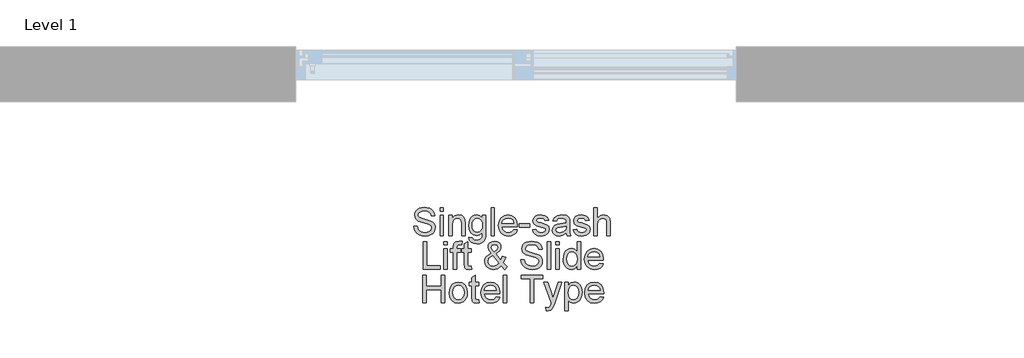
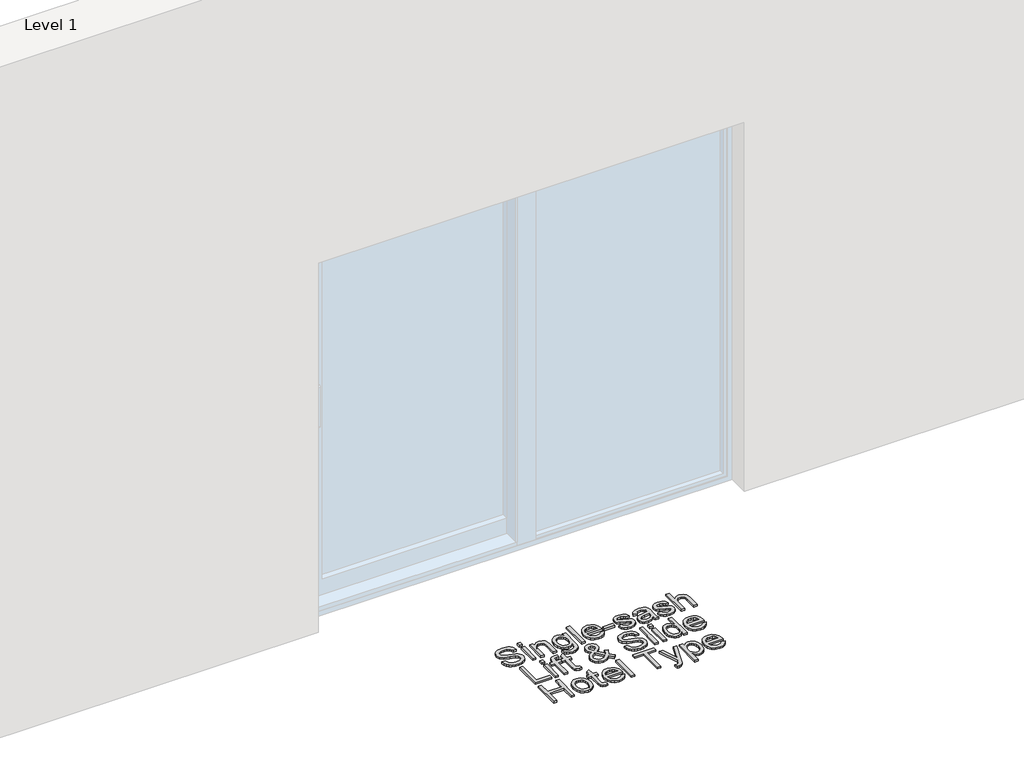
# One storey, part 9 of 13: 1 proxy.
"""IFC4 building model written with IfcOpenShell, lengths in millimetres."""

import ifcopenshell
import ifcopenshell.guid

model = None  # the IFC model being written
_history = None  # IfcOwnerHistory: only IFC2X3 demands one
_inside = {}  # id of a spatial element -> (the spatial element, [elements in it])
_under = {}  # id of a project, library or spatial element -> (it, [spatial elements below it])
_declared = {}  # id of a project -> (the project, [libraries it declares])
_typed = {}  # id of a type object -> (the type object, [elements of that type])
_made_of = {}  # id of a material, layer set ... -> (it, [elements and type objects made of it])


def new_model(schema):
    """Start an empty IFC model of exactly this schema.

    Asked for "IFC4X3", IfcOpenShell would pick the latest addendum, in which some entities
    have other attributes; the version numbers below select the first issue.
    IFC2X3 requires an IfcOwnerHistory on every rooted entity: one is made here for all.
    """
    global model, _history
    if schema == "IFC4X3":
        model = ifcopenshell.file(schema_version=(4, 3, 0, 0))
    else:
        model = ifcopenshell.file(schema=schema)
    _inside.clear()
    _under.clear()
    _declared.clear()
    _typed.clear()
    _made_of.clear()
    _history = None
    if model.schema == "IFC2X3":
        org = make("IfcOrganization", Name="unknown")
        user = make(
            "IfcPersonAndOrganization",
            ThePerson=make("IfcPerson", FamilyName="unknown"),
            TheOrganization=org,
        )
        app = make(
            "IfcApplication",
            ApplicationDeveloper=org,
            Version="unknown",
            ApplicationFullName="unknown",
            ApplicationIdentifier="unknown",
        )
        _history = make(
            "IfcOwnerHistory",
            OwningUser=user,
            OwningApplication=app,
            ChangeAction="ADDED",
            CreationDate=0,
        )
    return model


def make(cls, **values):
    """One entity of the class cls with the attributes given. An attribute that is None is left unset."""
    return model.create_entity(
        cls, **{name: value for name, value in values.items() if value is not None}
    )


def rooted(cls, **values):
    """An entity with a GlobalId (a new one), such as an element, a storey or a relation."""
    return make(cls, GlobalId=ifcopenshell.guid.new(), OwnerHistory=_history, **values)


def si_unit(unit_type, name, prefix=None):
    """IfcSIUnit, for example si_unit("LENGTHUNIT", "METRE", prefix="MILLI")."""
    return make("IfcSIUnit", UnitType=unit_type, Prefix=prefix, Name=name)


def assignment(units):
    """IfcUnitAssignment: the units of a project."""
    return None if units is None else make("IfcUnitAssignment", Units=units)


def point(xyz):
    """IfcCartesianPoint."""
    return None if xyz is None else make("IfcCartesianPoint", Coordinates=xyz)


def direction(xyz):
    """IfcDirection."""
    return None if xyz is None else make("IfcDirection", DirectionRatios=xyz)


def frame(location, z_axis=None, x_axis=None):
    """IfcAxis2Placement3D, a coordinate frame: its origin and axes. An axis left out is left unset."""
    return make(
        "IfcAxis2Placement3D",
        Location=point(location),
        Axis=direction(z_axis),
        RefDirection=direction(x_axis),
    )


def origin():
    """The frame at (0, 0, 0) with its axes left unset."""
    return frame((0.0, 0.0, 0.0))


def origin_with_axes():
    """The frame at (0, 0, 0) with the z axis (0, 0, 1) and the x axis (1, 0, 0) written out."""
    return frame((0.0, 0.0, 0.0), z_axis=(0.0, 0.0, 1.0), x_axis=(1.0, 0.0, 0.0))


def place(relative_to, where):
    """IfcLocalPlacement: puts the frame where relative to a parent placement (None: the world)."""
    return make(
        "IfcLocalPlacement", PlacementRelTo=relative_to, RelativePlacement=where
    )


def context(
    kind, dimensions, precision=None, world=None, true_north=None, identifier=None
):
    """IfcGeometricRepresentationContext, for example the 3D "Model" context."""
    return make(
        "IfcGeometricRepresentationContext",
        ContextIdentifier=identifier,
        ContextType=kind,
        CoordinateSpaceDimension=dimensions,
        Precision=precision,
        WorldCoordinateSystem=world,
        TrueNorth=true_north,
    )


def project(units=None, contexts=None):
    """IfcProject with its units and contexts."""
    return rooted(
        "IfcProject",
        Name="project",
        RepresentationContexts=contexts,
        UnitsInContext=assignment(units),
    )


def spatial(cls, under=None, at=None, **own):
    """A site, building, storey or space (cls), placed at a placement, below another one or the project."""
    s = rooted(cls, ObjectPlacement=at, **own)
    if under is not None:
        _under.setdefault(under.id(), (under, []))[1].append(s)
    return s


def polyline(points):
    """IfcPolyline through the points."""
    return make("IfcPolyline", Points=[point(p) for p in points])


def outline(outer, holes=None, kind="AREA"):
    """IfcArbitraryClosedProfileDef: a profile drawn as a closed curve; with holes, ...WithVoids."""
    if holes is None:
        return make("IfcArbitraryClosedProfileDef", ProfileType=kind, OuterCurve=outer)
    return make(
        "IfcArbitraryProfileDefWithVoids",
        ProfileType=kind,
        OuterCurve=outer,
        InnerCurves=holes,
    )


def extrude(swept, where, along, depth):
    """IfcExtrudedAreaSolid: the profile swept, set in the frame where, extruded along a direction by depth."""
    return make(
        "IfcExtrudedAreaSolid",
        SweptArea=swept,
        Position=where,
        ExtrudedDirection=direction(along),
        Depth=depth,
    )


def shape(context_of_items, identifier, shape_type, items):
    """IfcShapeRepresentation: the items that make up one representation, for example the "Body"."""
    return make(
        "IfcShapeRepresentation",
        ContextOfItems=context_of_items,
        RepresentationIdentifier=identifier,
        RepresentationType=shape_type,
        Items=items,
    )


def made_of(thing, what):
    """Note that an element or type object is made of a material, layer set ...; save() writes the relation."""
    if what is not None:
        _made_of.setdefault(what.id(), (what, []))[1].append(thing)
    return thing


def element(
    cls,
    number,
    at=None,
    inside=None,
    cuts=None,
    type_object=None,
    material=None,
    context=None,
    identifier="Body",
    shape_type=None,
    held_by="IfcProductDefinitionShape",
    body=None,
    shapes=None,
    **own,
):
    """One element of the class cls, such as IfcWall. Its Tag is "e" and its number.

    at: its placement. inside: the storey or other place that contains it. cuts: it is an
    opening in that element (IfcRelVoidsElement). A single representation is given by context,
    identifier, shape_type and body (its items); several are given by shapes. held_by: the class
    of the entity that holds the representations. save() writes the other relations.
    """
    e = rooted(cls, Tag="e%d" % number, ObjectPlacement=at, **own)
    if body is not None:
        shapes = [shape(context, identifier, shape_type, body)]
    if shapes is not None:
        e.Representation = make(held_by, Representations=shapes)
    if inside is not None:
        _inside.setdefault(inside.id(), (inside, []))[1].append(e)
    if cuts is not None:
        rooted(
            "IfcRelVoidsElement", RelatingBuildingElement=cuts, RelatedOpeningElement=e
        )
    if type_object is not None:
        _typed.setdefault(type_object.id(), (type_object, []))[1].append(e)
    return made_of(e, material)


def aggregate(whole, parts):
    """IfcRelAggregates: a whole, such as a stair, and the parts it consists of."""
    return rooted("IfcRelAggregates", RelatingObject=whole, RelatedObjects=parts)


def save(model, path):
    """Write the relations noted so far, then the file.

    IfcRelAggregates (storeys below a building ...), IfcRelContainedInSpatialStructure (elements
    in a storey), IfcRelDefinesByType, IfcRelAssociatesMaterial and IfcRelDeclares: one each for
    every whole, place, type object, material and project.
    """
    for whole, parts in _under.values():
        aggregate(whole, parts)
    for where, things in _inside.values():
        rooted(
            "IfcRelContainedInSpatialStructure",
            RelatedElements=things,
            RelatingStructure=where,
        )
    for kind, things in _typed.values():
        rooted("IfcRelDefinesByType", RelatedObjects=things, RelatingType=kind)
    for what, things in _made_of.values():
        rooted("IfcRelAssociatesMaterial", RelatedObjects=things, RelatingMaterial=what)
    for by, libraries in _declared.values():
        rooted("IfcRelDeclares", RelatingContext=by, RelatedDefinitions=libraries)
    model.write(path)


model = new_model("IFC4")

# Units and contexts
model_context = context("Model", 3, world=origin())
ifc_project = project(units=[si_unit("LENGTHUNIT", "METRE", prefix="MILLI")], contexts=[model_context])

# Site, building, storey
site = spatial("IfcSite", under=ifc_project)
building = spatial("IfcBuilding", under=site)
storey = spatial("IfcBuildingStorey", under=building, Name="Level 1", Elevation=0.0)

# Proxy
placement = place(None, origin())
element("IfcBuildingElementProxy", 1, Name="150mm Arial", ObjectType="150mm Arial", at=placement, inside=storey, context=model_context, shape_type="SweptSolid", body=[
    extrude(outline(polyline([(11421.3631783, -845.8649684), (11440.1987364, -845.8649684), (11446.2687894, -864.7189207), (11461.0944338, -876.6382973), (11483.6823883, -881.18164), (11503.364075, -877.7419433), (11516.074398, -868.287376), (11520.2498586, -855.6506295), (11517.1228616, -843.8967997), (11504.3205682, -835.3435434), (11476.8949655, -828.1514504), (11447.3724354, -818.86243), (11431.3511745, -804.846126), (11426.0720678, -786.1209324), (11427.7045442, -775.0890711), (11432.6019732, -764.8021708), (11440.6355963, -756.0833675), (11451.6766547, -749.7557972), (11479.5988981, -744.6238433), (11509.3973397, -749.9949205), (11520.8200757, -756.6259934), (11529.2629675, -765.7770581), (11534.6064535, -776.8778973), (11536.730972, -789.358294), (11517.8954138, -789.358294), (11514.4373231, -778.119499), (11507.226836, -770.007701), (11495.9604499, -765.0964764), (11480.3346621, -763.4594015), (11464.3409924, -765.0780823), (11453.3689119, -769.9341246), (11447.0229475, -777.0802324), (11444.907626, -785.5691094), (11446.4067451, -792.8071877), (11450.9041025, -798.6289202), (11481.6590373, -809.1503453), (11514.9891461, -818.6049126), (11525.7267018, -825.4383206), (11533.2176989, -833.8720154), (11537.6184873, -843.8140263), (11539.0854168, -855.1723829), (11537.3977581, -866.7836584), (11532.3347821, -877.7051551), (11524.1034225, -887.1045401), (11512.9106128, -894.1494803), (11499.4507303, -898.5502687), (11484.4181523, -900.0171981), (11465.9642717, -898.4353055), (11450.7753438, -893.6896278), (11438.6766247, -885.7617708), (11429.4933704, -874.6333404), (11423.5980614, -861.0768889), (11421.3631783, -845.8649684)])), origin_with_axes(), (0.0, 0.0, 1.0), 10.0),
    extrude(outline(polyline([(11564.9843092, -897.6627533), (11564.9843092, -787.0038492), (11583.8198674, -787.0038492), (11583.8198674, -897.6627533), (11564.9843092, -897.6627533)])), origin_with_axes(), (0.0, 0.0, 1.0), 10.0),
    extrude(outline(polyline([(11564.9843092, -765.8138463), (11564.9843092, -746.9782881), (11583.8198674, -746.9782881), (11583.8198674, -765.8138463), (11564.9843092, -765.8138463)])), origin_with_axes(), (0.0, 0.0, 1.0), 10.0),
    extrude(outline(polyline([(11612.0732046, -897.6627533), (11612.0732046, -787.0038492), (11630.9087627, -787.0038492), (11630.9087627, -802.454893), (11645.3113429, -789.1007766), (11664.9746355, -784.6494044), (11682.76173, -788.2362539), (11694.9018358, -797.654033), (11700.5488244, -811.5047901), (11701.5421058, -829.7149488), (11701.5421058, -897.6627533), (11682.7065477, -897.6627533), (11682.7065477, -832.2533346), (11680.5360439, -815.5882802), (11672.8657043, -806.7775064), (11659.9346522, -803.4849626), (11648.9027908, -805.3335696), (11639.4988073, -810.8793907), (11633.0562739, -821.5939538), (11630.9087627, -838.9487869), (11630.9087627, -897.6627533), (11612.0732046, -897.6627533)])), origin_with_axes(), (0.0, 0.0, 1.0), 10.0),
    extrude(outline(polyline([(11722.7321087, -907.0805324), (11741.5676669, -909.4349772), (11747.674508, -919.3677911), (11765.9582432, -923.5616458), (11785.2352597, -918.8159681), (11794.4323096, -905.4986398), (11795.7198966, -883.5360847), (11782.4577507, -894.1310862), (11766.289337, -897.6627533), (11746.8697662, -893.551672), (11732.3890111, -881.2184282), (11723.3805008, -863.1370281), (11720.377664, -841.7814783), (11725.7671352, -812.590042), (11732.36142, -800.7396432), (11741.3653318, -791.9334679), (11752.4707695, -786.4704203), (11765.369632, -784.6494044), (11782.1726421, -788.7696828), (11795.7198966, -801.1305178), (11795.7198966, -787.0038492), (11814.5554547, -787.0038492), (11814.5554547, -882.5428033), (11813.2678678, -904.6019275), (11809.4051068, -919.1286678), (11802.7510412, -928.7625775), (11793.0895403, -936.14321), (11780.6321363, -940.8337055), (11765.5903612, -942.397204), (11748.0653826, -940.1945105), (11734.2652093, -933.5864302), (11725.4130488, -922.5545688), (11722.7321087, -907.0805324)]), holes=[polyline([(11739.2132221, -840.4938913), (11741.2227775, -857.7705495), (11747.2514437, -869.6485394), (11756.3151364, -876.5325312), (11767.4297712, -878.8271952), (11778.4616325, -876.5463268), (11787.5713104, -869.7037217), (11793.68275, -857.9774831), (11795.7198966, -841.0457143), (11793.6229692, -824.7163522), (11787.3321871, -812.957924), (11778.089152, -805.8532029), (11767.1354656, -803.4849626), (11756.3795157, -805.8164147), (11747.3618083, -812.8107712), (11741.2503687, -824.3944555), (11739.2132221, -840.4938913)])]), origin_with_axes(), (0.0, 0.0, 1.0), 10.0),
    extrude(outline(polyline([(11842.808792, -897.6627533), (11842.808792, -746.9782881), (11861.6443501, -746.9782881), (11861.6443501, -897.6627533), (11842.808792, -897.6627533)])), origin_with_axes(), (0.0, 0.0, 1.0), 10.0),
    extrude(outline(polyline([(11967.3736355, -864.7005266), (11985.8413117, -867.0549713), (11979.1872461, -880.9701078), (11968.569252, -891.3719712), (11954.2264527, -897.8558914), (11936.3979715, -900.0171981), (11914.2974607, -896.2877944), (11897.2921155, -885.0995832), (11886.4487936, -867.1791315), (11882.834353, -843.2530063), (11886.4855818, -818.5221391), (11897.4392683, -800.0268718), (11914.2146872, -788.4937713), (11935.3311138, -784.6494044), (11955.7899512, -788.4845742), (11972.1377074, -799.9900836), (11982.856869, -818.4485627), (11986.4299229, -843.1426417), (11986.3195583, -848.2194132), (11901.6699112, -848.2194132), (11904.9302654, -862.3184907), (11912.504036, -872.6835659), (11923.4347297, -879.0571214), (11936.7658535, -881.18164), (11955.2335297, -877.2453026), (11967.3736355, -864.7005266)]), holes=[polyline([(11901.6699112, -829.383855), (11967.5943647, -829.383855), (11965.0467819, -819.4326471), (11960.0527838, -812.3141305), (11949.0715063, -805.6922545), (11935.2575374, -803.4849626), (11922.56101, -805.2461976), (11912.0625776, -810.5299028), (11904.7647185, -818.765861), (11901.6699112, -829.383855)])]), origin_with_axes(), (0.0, 0.0, 1.0), 10.0),
    extrude(outline(polyline([(11995.847702, -852.9283027), (11995.847702, -834.0927446), (12054.7088212, -834.0927446), (12054.7088212, -852.9283027), (11995.847702, -852.9283027)])), origin_with_axes(), (0.0, 0.0, 1.0), 10.0),
    extrude(outline(polyline([(12068.8354898, -864.7005266), (12087.671048, -862.3460818), (12090.6416951, -870.4026975), (12096.3898512, -876.3255976), (12116.3658436, -881.18164), (12135.5692837, -876.7302678), (12141.8232776, -866.2824192), (12140.2505821, -861.4815591), (12135.5324955, -857.8211333), (12116.1451144, -852.4500561), (12087.7814126, -843.2346122), (12075.4021834, -832.4740638), (12071.1899346, -817.2805374), (12074.5744489, -803.2458393), (12083.808287, -792.5220791), (12095.782846, -786.9486669), (12111.9880478, -784.6494044), (12134.9070961, -788.3466185), (12149.4752231, -798.3530087), (12155.9499463, -815.2571864), (12137.1143881, -817.6116312), (12130.0326597, -807.2189648), (12113.4595758, -803.4849626), (12095.4333581, -807.0534179), (12090.0254927, -815.367551), (12092.2695729, -820.8489927), (12099.296119, -825.0060593), (12115.519715, -829.015973), (12143.1660469, -837.8819291), (12156.0051286, -847.9251076), (12160.6588358, -864.2958564), (12155.1957882, -882.3220741), (12139.4320447, -895.4002791), (12116.1083262, -900.0171981), (12097.1164182, -897.791512), (12083.256464, -891.1144538), (12074.0042318, -880.0595999), (12068.8354898, -864.7005266)])), origin_with_axes(), (0.0, 0.0, 1.0), 10.0),
    extrude(outline(polyline([(12252.4821818, -883.5360847), (12234.2168407, -896.30159), (12214.0385133, -900.0171981), (12198.2977624, -897.782315), (12186.686487, -891.0776656), (12179.5265836, -880.8965314), (12177.1399492, -868.2321937), (12180.7451927, -853.3329729), (12190.2181541, -842.5172423), (12203.4067236, -836.3368247), (12219.703896, -833.5041334), (12252.3718172, -827.0294103), (12252.4821818, -822.8355555), (12251.1853978, -814.4294519), (12247.2950457, -808.9296161), (12238.5946365, -804.846126), (12226.4729247, -803.4849626), (12207.4166374, -807.1086002), (12198.3299521, -819.966076), (12179.494394, -817.6116312), (12187.6429801, -799.2175314), (12204.0505171, -788.438589), (12228.9009459, -784.6494044), (12251.7280237, -787.9971306), (12264.6222876, -796.4032342), (12270.398035, -809.1871335), (12271.31774, -825.6682469), (12271.31774, -849.10233), (12272.2742331, -881.8254334), (12276.0266295, -897.6627533), (12257.1910713, -897.6627533), (12252.4821818, -883.5360847)]), holes=[polyline([(12252.4821818, -845.8649684), (12222.095129, -851.6407157), (12205.8899271, -854.6941363), (12198.5506813, -859.6605432), (12195.9755073, -866.9078185), (12201.5857078, -877.0981498), (12218.048427, -881.18164), (12237.1047144, -876.6750855), (12249.391973, -865.7673844), (12252.3718172, -851.1992574), (12252.4821818, -845.8649684)])]), origin_with_axes(), (0.0, 0.0, 1.0), 10.0),
    extrude(outline(polyline([(12290.1532981, -864.7005266), (12308.9888563, -862.3460818), (12311.9595034, -870.4026975), (12317.7076595, -876.3255976), (12337.6836519, -881.18164), (12356.887092, -876.7302678), (12363.1410859, -866.2824192), (12361.5683904, -861.4815591), (12356.8503038, -857.8211333), (12337.4629227, -852.4500561), (12309.0992209, -843.2346122), (12296.7199917, -832.4740638), (12292.5077429, -817.2805374), (12295.8922572, -803.2458393), (12305.1260953, -792.5220791), (12317.1006543, -786.9486669), (12333.3058561, -784.6494044), (12356.2249044, -788.3466185), (12370.7930314, -798.3530087), (12377.2677546, -815.2571864), (12358.4321964, -817.6116312), (12351.350468, -807.2189648), (12334.7773841, -803.4849626), (12316.7511664, -807.0534179), (12311.343301, -815.367551), (12313.5873812, -820.8489927), (12320.6139273, -825.0060593), (12336.8375233, -829.015973), (12364.4838552, -837.8819291), (12377.3229369, -847.9251076), (12381.9766441, -864.2958564), (12376.5135965, -882.3220741), (12360.749853, -895.4002791), (12337.4261345, -900.0171981), (12318.4342265, -897.791512), (12304.5742723, -891.1144538), (12295.3220401, -880.0595999), (12290.1532981, -864.7005266)])), origin_with_axes(), (0.0, 0.0, 1.0), 10.0),
    extrude(outline(polyline([(12403.166647, -897.6627533), (12403.166647, -746.9782881), (12422.0022052, -746.9782881), (12422.0022052, -802.3813166), (12436.6898938, -789.0823825), (12454.7804909, -784.6494044), (12475.9337057, -789.4870527), (12488.7727873, -802.8595632), (12492.6355482, -827.6180215), (12492.6355482, -897.6627533), (12473.7999901, -897.6627533), (12473.7999901, -829.567796), (12472.300871, -817.7771781), (12467.8035136, -809.7021683), (12460.5562383, -805.039264), (12450.8073654, -803.4849626), (12435.3747157, -807.6788173), (12425.0740198, -819.046371), (12422.0022052, -838.8752105), (12422.0022052, -897.6627533), (12403.166647, -897.6627533)])), origin_with_axes(), (0.0, 0.0, 1.0), 10.0),
    extrude(outline(polyline([(11473.1609632, -1080.6249801), (11473.1609632, -929.9405149), (11491.9965214, -929.9405149), (11491.9965214, -1061.789422), (11567.338754, -1061.789422), (11567.338754, -1080.6249801), (11473.1609632, -1080.6249801)])), origin_with_axes(), (0.0, 0.0, 1.0), 10.0),
    extrude(outline(polyline([(11586.1743121, -948.776073), (11586.1743121, -929.9405149), (11605.0098703, -929.9405149), (11605.0098703, -948.776073), (11586.1743121, -948.776073)])), origin_with_axes(), (0.0, 0.0, 1.0), 10.0),
    extrude(outline(polyline([(11586.1743121, -1080.6249801), (11586.1743121, -969.966076), (11605.0098703, -969.966076), (11605.0098703, -1080.6249801), (11586.1743121, -1080.6249801)])), origin_with_axes(), (0.0, 0.0, 1.0), 10.0),
    extrude(outline(polyline([(11637.9720971, -1080.6249801), (11637.9720971, -988.8016341), (11621.4909837, -988.8016341), (11621.4909837, -969.966076), (11637.9720971, -969.966076), (11637.9720971, -958.8192515), (11639.9586598, -943.1106903), (11649.5971681, -931.8902895), (11668.5798791, -927.5860701), (11685.7599682, -929.6462093), (11683.0008533, -947.3045451), (11672.1483344, -946.4216283), (11660.2841401, -949.5486252), (11656.8076552, -961.2104845), (11656.8076552, -969.966076), (11677.9976581, -969.966076), (11677.9976581, -988.8016341), (11656.8076552, -988.8016341), (11656.8076552, -1080.6249801), (11637.9720971, -1080.6249801)])), origin_with_axes(), (0.0, 0.0, 1.0), 10.0),
    extrude(outline(polyline([(11734.5043326, -1064.9164189), (11736.8587774, -1081.1768031), (11722.7688969, -1082.9794249), (11706.9867593, -1079.8524279), (11699.1140847, -1071.6486594), (11696.8332163, -1050.2747155), (11696.8332163, -988.8016341), (11682.7065477, -988.8016341), (11682.7065477, -969.966076), (11696.8332163, -969.966076), (11696.8332163, -943.0739021), (11715.6687744, -932.0006541), (11715.6687744, -969.966076), (11734.5043326, -969.966076), (11734.5043326, -988.8016341), (11715.6687744, -988.8016341), (11715.6687744, -1049.7228925), (11716.6620558, -1059.4349772), (11719.8810233, -1062.8746738), (11726.3005641, -1064.1438667), (11734.5043326, -1064.9164189)])), origin_with_axes(), (0.0, 0.0, 1.0), 10.0),
    extrude(outline(polyline([(11898.6164906, -1062.0101512), (11878.6404983, -1077.7371064), (11855.2799916, -1082.9794249), (11834.4946589, -1079.0982698), (11818.4917921, -1067.4548047), (11810.2420383, -1054.054703), (11807.4921204, -1039.1646793), (11809.7040109, -1025.9669127), (11816.3396824, -1014.1119154), (11827.3715437, -1003.6088844), (11842.7720038, -994.4670168), (11829.6202224, -975.4107295), (11826.3276786, -961.2840609), (11828.9212467, -948.5645409), (11836.7019508, -937.6292486), (11848.4097953, -930.0968647), (11862.7847843, -927.5860701), (11876.4607975, -929.9865001), (11887.3960898, -937.1877902), (11894.5697887, -947.7552005), (11896.9610217, -960.2539913), (11895.1905896, -970.7478252), (11889.8792933, -980.4507128), (11868.634108, -997.4836492), (11895.8941639, -1031.4391574), (11904.024356, -1010.5802482), (11922.8599141, -1014.6637384), (11909.5425859, -1045.6761906), (11932.2776932, -1068.4848743), (11918.1510246, -1082.9794249), (11898.6164906, -1062.0101512)]), holes=[polyline([(11859.1059644, -985.6010608), (11874.5937964, -973.9208074), (11878.1254635, -962.8291653), (11873.4717563, -951.0017591), (11861.8282911, -946.4216283), (11849.9273086, -950.9649709), (11845.1632367, -962.0566131), (11846.7819175, -968.9544005), (11851.6747481, -976.6247401), (11859.1059644, -985.6010608)]), polyline([(11885.9981382, -1048.4353055), (11852.3737238, -1006.4599699), (11831.6803616, -1022.2421075), (11826.3276786, -1036.6630817), (11828.1578915, -1045.5474319), (11833.6485303, -1054.7628758), (11842.4960923, -1061.798619), (11854.3970748, -1064.1438667), (11871.7059227, -1059.766071), (11885.9981382, -1048.4353055)])]), origin_with_axes(), (0.0, 0.0, 1.0), 10.0),
    extrude(outline(polyline([(12005.265481, -1028.8271952), (12024.1010392, -1028.8271952), (12030.1710921, -1047.6811474), (12044.9967365, -1059.6005241), (12067.584691, -1064.1438667), (12087.2663778, -1060.7041701), (12099.9767007, -1051.2496028), (12104.1521613, -1038.6128563), (12101.0251644, -1026.8590265), (12088.222871, -1018.3057701), (12060.7972682, -1011.1136771), (12031.2747381, -1001.8246567), (12015.2534772, -987.8083527), (12009.9743706, -969.0831592), (12011.6068469, -958.0512978), (12016.504276, -947.7643976), (12024.5378991, -939.0455943), (12035.5789574, -932.7180239), (12063.5012009, -927.5860701), (12093.2996425, -932.9571472), (12104.7223784, -939.5882202), (12113.1652702, -948.7392848), (12118.5087562, -959.840124), (12120.6332747, -972.3205207), (12101.7977166, -972.3205207), (12098.3396258, -961.0817258), (12091.1291387, -952.9699278), (12079.8627526, -948.0587031), (12064.2369649, -946.4216283), (12048.2432951, -948.040309), (12037.2712146, -952.8963514), (12030.9252502, -960.0424591), (12028.8099287, -968.5313362), (12030.3090479, -975.7694144), (12034.8064053, -981.591147), (12065.56134, -992.1125721), (12098.8914488, -1001.5671393), (12109.6290045, -1008.4005474), (12117.1200017, -1016.8342421), (12121.52079, -1026.7762531), (12122.9877195, -1038.1346097), (12121.3000608, -1049.7458851), (12116.2370849, -1060.6673819), (12108.0057252, -1070.0667668), (12096.8129155, -1077.1117071), (12083.353033, -1081.5124954), (12068.320455, -1082.9794249), (12049.8665744, -1081.3975323), (12034.6776466, -1076.6518546), (12022.5789274, -1068.7239976), (12013.3956731, -1057.5955672), (12007.5003642, -1044.0391157), (12005.265481, -1028.8271952)])), origin_with_axes(), (0.0, 0.0, 1.0), 10.0),
    extrude(outline(polyline([(12148.886612, -1080.6249801), (12148.886612, -929.9405149), (12167.7221701, -929.9405149), (12167.7221701, -1080.6249801), (12148.886612, -1080.6249801)])), origin_with_axes(), (0.0, 0.0, 1.0), 10.0),
    extrude(outline(polyline([(12195.9755073, -948.776073), (12195.9755073, -929.9405149), (12214.8110655, -929.9405149), (12214.8110655, -948.776073), (12195.9755073, -948.776073)])), origin_with_axes(), (0.0, 0.0, 1.0), 10.0),
    extrude(outline(polyline([(12195.9755073, -1080.6249801), (12195.9755073, -969.966076), (12214.8110655, -969.966076), (12214.8110655, -1080.6249801), (12195.9755073, -1080.6249801)])), origin_with_axes(), (0.0, 0.0, 1.0), 10.0),
    extrude(outline(polyline([(12311.343301, -1080.6249801), (12311.343301, -1062.8562797), (12298.8812984, -1077.9486386), (12281.655224, -1082.9794249), (12269.47833, -1081.158409), (12258.3315055, -1075.6953614), (12248.8953323, -1066.9719596), (12241.8503921, -1055.3698811), (12237.4633993, -1041.3581756), (12236.0010684, -1025.4058926), (12241.3905396, -995.42351), (12248.1227802, -983.5317245), (12257.5405592, -974.7853301), (12268.9311055, -969.4050559), (12281.5816476, -967.6116312), (12298.9456778, -972.743585), (12311.343301, -986.0793073), (12311.343301, -929.9405149), (12330.1788592, -929.9405149), (12330.1788592, -1080.6249801), (12311.343301, -1080.6249801)]), holes=[polyline([(12254.8366266, -1025.3323162), (12256.9611451, -1042.3698511), (12263.3347007, -1054.4869644), (12272.5961299, -1061.7296411), (12283.3842694, -1064.1438667), (12294.1678104, -1061.8400057), (12303.1947148, -1054.9284227), (12309.3061545, -1043.2803591), (12311.343301, -1026.767056), (12309.2693663, -1008.7132471), (12303.047562, -996.1960622), (12293.7907313, -988.8844076), (12282.6117172, -986.4471893), (12271.7132131, -988.7878385), (12262.7828777, -995.8097861), (12256.8231893, -1007.871717), (12254.8366266, -1025.3323162)])]), origin_with_axes(), (0.0, 0.0, 1.0), 10.0),
    extrude(outline(polyline([(12435.9081446, -1047.6627533), (12454.3758208, -1050.0171981), (12447.7217552, -1063.9323346), (12437.1037611, -1074.334198), (12422.7609618, -1080.8181182), (12404.9324806, -1082.9794249), (12382.8319697, -1079.2500212), (12365.8266245, -1068.06181), (12354.9833027, -1050.1413583), (12351.3688621, -1026.215233), (12355.0200909, -1001.4843659), (12365.9737773, -982.9890986), (12382.7491963, -971.455998), (12403.8656228, -967.6116312), (12424.3244603, -971.446801), (12440.6722164, -982.9523104), (12451.3913781, -1001.4107895), (12454.9644319, -1026.1048684), (12454.8540673, -1031.18164), (12370.2044203, -1031.18164), (12373.4647744, -1045.2807174), (12381.038545, -1055.6457926), (12391.9692388, -1062.0193482), (12405.3003626, -1064.1438667), (12423.7680388, -1060.2075294), (12435.9081446, -1047.6627533)]), holes=[polyline([(12370.2044203, -1012.3460818), (12436.1288738, -1012.3460818), (12433.581291, -1002.3948738), (12428.5872929, -995.2763572), (12417.6060153, -988.6544813), (12403.7920464, -986.4471893), (12391.0955191, -988.2084244), (12380.5970866, -993.4921296), (12373.2992275, -1001.7280877), (12370.2044203, -1012.3460818)])]), origin_with_axes(), (0.0, 0.0, 1.0), 10.0),
    extrude(outline(polyline([(11471.9837408, -1263.5872069), (11471.9837408, -1112.9027417), (11490.819299, -1112.9027417), (11490.819299, -1174.1183057), (11570.8704211, -1174.1183057), (11570.8704211, -1112.9027417), (11589.7059793, -1112.9027417), (11589.7059793, -1263.5872069), (11570.8704211, -1263.5872069), (11570.8704211, -1192.9538638), (11490.819299, -1192.9538638), (11490.819299, -1263.5872069), (11471.9837408, -1263.5872069)])), origin_with_axes(), (0.0, 0.0, 1.0), 10.0),
    extrude(outline(polyline([(11615.6048717, -1208.2577548), (11619.6791648, -1181.5771131), (11631.9020441, -1162.8243284), (11647.0036, -1153.6364756), (11665.0850001, -1150.573858), (11684.8724529, -1154.3032617), (11700.6775831, -1165.4914729), (11711.0380598, -1183.2555747), (11714.4915521, -1206.7126504), (11712.9648418, -1225.7413466), (11708.3847109, -1240.2267002), (11700.8845168, -1251.0746205), (11690.5976165, -1259.191017), (11678.3793357, -1264.253993), (11665.0850001, -1265.9416516), (11645.058424, -1262.2260435), (11629.2716879, -1251.079219), (11619.0215758, -1232.9426367), (11615.6048717, -1208.2577548)]), holes=[polyline([(11634.4404299, -1208.2209666), (11636.6201307, -1225.2676986), (11643.1592332, -1237.4124029), (11653.0000766, -1244.6826709), (11665.0850001, -1247.1060935), (11677.1147413, -1244.6688753), (11686.9371906, -1237.3572206), (11693.4762931, -1225.0515679), (11695.6559939, -1207.6323554), (11693.4624975, -1191.0822642), (11686.8820083, -1179.1031067), (11677.0457635, -1171.8328388), (11665.0850001, -1169.4094161), (11653.0000766, -1171.8236417), (11643.1592332, -1179.0663185), (11636.6201307, -1191.1834317), (11634.4404299, -1208.2209666)])]), origin_with_axes(), (0.0, 0.0, 1.0), 10.0),
    extrude(outline(polyline([(11775.707116, -1247.8786457), (11778.0615608, -1264.1390299), (11763.9716804, -1265.9416516), (11748.1895428, -1262.8146547), (11740.3168681, -1254.6108862), (11738.0359997, -1233.2369423), (11738.0359997, -1171.7638609), (11723.9093311, -1171.7638609), (11723.9093311, -1152.9283027), (11738.0359997, -1152.9283027), (11738.0359997, -1126.0361289), (11756.8715579, -1114.9628808), (11756.8715579, -1152.9283027), (11775.707116, -1152.9283027), (11775.707116, -1171.7638609), (11756.8715579, -1171.7638609), (11756.8715579, -1232.6851193), (11757.8648393, -1242.397204), (11761.0838067, -1245.8369006), (11767.5033476, -1247.1060935), (11775.707116, -1247.8786457)])), origin_with_axes(), (0.0, 0.0, 1.0), 10.0),
    extrude(outline(polyline([(11872.0186224, -1230.6249801), (11890.4862985, -1232.9794249), (11883.832233, -1246.8945613), (11873.2142389, -1257.2964248), (11858.8714396, -1263.7803449), (11841.0429584, -1265.9416516), (11818.9424475, -1262.2122479), (11801.9371023, -1251.0240367), (11791.0937805, -1233.1035851), (11787.4793399, -1209.1774598), (11791.1305687, -1184.4465927), (11802.0842551, -1165.9513254), (11818.8596741, -1154.4182248), (11839.9761006, -1150.573858), (11860.4349381, -1154.4090278), (11876.7826942, -1165.9145372), (11887.5018559, -1184.3730163), (11891.0749097, -1209.0670952), (11890.9645451, -1214.1438667), (11806.314898, -1214.1438667), (11809.5752522, -1228.2429442), (11817.1490228, -1238.6080194), (11828.0797166, -1244.981575), (11841.4108404, -1247.1060935), (11859.8785165, -1243.1697561), (11872.0186224, -1230.6249801)]), holes=[polyline([(11806.314898, -1195.3083086), (11872.2393516, -1195.3083086), (11869.6917688, -1185.3571006), (11864.6977707, -1178.238584), (11853.7164931, -1171.6167081), (11839.9025242, -1169.4094161), (11827.2059968, -1171.1706512), (11816.7075644, -1176.4543563), (11809.4097053, -1184.6903145), (11806.314898, -1195.3083086)])]), origin_with_axes(), (0.0, 0.0, 1.0), 10.0),
    extrude(outline(polyline([(11909.9104679, -1263.5872069), (11909.9104679, -1112.9027417), (11928.746026, -1112.9027417), (11928.746026, -1263.5872069), (11909.9104679, -1263.5872069)])), origin_with_axes(), (0.0, 0.0, 1.0), 10.0),
    extrude(outline(polyline([(12055.8860436, -1263.5872069), (12055.8860436, -1131.7382998), (12006.4427034, -1131.7382998), (12006.4427034, -1112.9027417), (12124.1649419, -1112.9027417), (12124.1649419, -1131.7382998), (12074.7216017, -1131.7382998), (12074.7216017, -1263.5872069), (12055.8860436, -1263.5872069)])), origin_with_axes(), (0.0, 0.0, 1.0), 10.0),
    extrude(outline(polyline([(12143.0005, -1305.9672127), (12140.6460553, -1287.8306304), (12150.2109871, -1289.4860993), (12159.1505196, -1287.4075661), (12164.6319613, -1281.6134246), (12169.7823093, -1267.7442734), (12171.2538373, -1263.1825367), (12131.2282762, -1152.9283027), (12151.0939039, -1152.9283027), (12172.320695, -1214.3645959), (12179.7151232, -1238.9391132), (12187.1095513, -1217.2340755), (12208.9249536, -1152.9283027), (12228.6434285, -1152.9283027), (12190.1261836, -1266.2359572), (12180.1197933, -1290.8104745), (12169.1936981, -1304.0910145), (12154.5152065, -1308.3216575), (12143.0005, -1305.9672127)])), origin_with_axes(), (0.0, 0.0, 1.0), 10.0),
    extrude(outline(polyline([(12244.2416251, -1305.9672127), (12244.2416251, -1152.9283027), (12263.0771833, -1152.9283027), (12263.0771833, -1171.3959789), (12276.1002059, -1155.7793882), (12293.6849653, -1150.573858), (12306.4228793, -1152.3948738), (12317.5605067, -1157.8579215), (12326.6287979, -1166.631907), (12333.1587033, -1178.3857368), (12338.4194159, -1207.4116262), (12336.9340923, -1223.5202591), (12332.4781216, -1237.9274377), (12325.1940581, -1249.9019967), (12315.2244561, -1258.7127704), (12303.6131806, -1264.1344313), (12291.4040969, -1265.9416516), (12275.014954, -1261.1040034), (12263.0771833, -1248.8719271), (12263.0771833, -1305.9672127), (12244.2416251, -1305.9672127)]), holes=[polyline([(12263.0771833, -1209.1406716), (12265.1143298, -1226.0264552), (12271.2257695, -1237.8354672), (12280.2434769, -1244.7884369), (12290.9994267, -1247.1060935), (12301.9301205, -1244.7056635), (12311.1777541, -1237.5043734), (12317.4823318, -1225.2631), (12319.5838577, -1207.74272), (12317.5329156, -1190.9489069), (12311.3800892, -1178.974348), (12302.3761774, -1171.8006491), (12291.7719789, -1169.4094161), (12281.1263936, -1171.9524004), (12271.7775924, -1179.5813533), (12265.2522856, -1192.0571514), (12263.0771833, -1209.1406716)])]), origin_with_axes(), (0.0, 0.0, 1.0), 10.0),
    extrude(outline(polyline([(12437.085367, -1230.6249801), (12455.5530431, -1232.9794249), (12448.8989775, -1246.8945613), (12438.2809835, -1257.2964248), (12423.9381842, -1263.7803449), (12406.109703, -1265.9416516), (12384.0091921, -1262.2122479), (12367.0038469, -1251.0240367), (12356.1605251, -1233.1035851), (12352.5460845, -1209.1774598), (12356.1973133, -1184.4465927), (12367.1509997, -1165.9513254), (12383.9264187, -1154.4182248), (12405.0428452, -1150.573858), (12425.5016827, -1154.4090278), (12441.8494388, -1165.9145372), (12452.5686004, -1184.3730163), (12456.1416543, -1209.0670952), (12456.0312897, -1214.1438667), (12371.3816426, -1214.1438667), (12374.6419968, -1228.2429442), (12382.2157674, -1238.6080194), (12393.1464612, -1244.981575), (12406.477585, -1247.1060935), (12424.9452611, -1243.1697561), (12437.085367, -1230.6249801)]), holes=[polyline([(12371.3816426, -1195.3083086), (12437.3060962, -1195.3083086), (12434.7585134, -1185.3571006), (12429.7645153, -1178.238584), (12418.7832377, -1171.6167081), (12404.9692688, -1169.4094161), (12392.2727414, -1171.1706512), (12381.774309, -1176.4543563), (12374.4764499, -1184.6903145), (12371.3816426, -1195.3083086)])]), origin_with_axes(), (0.0, 0.0, 1.0), 10.0),
])

save(model, "model.ifc")
